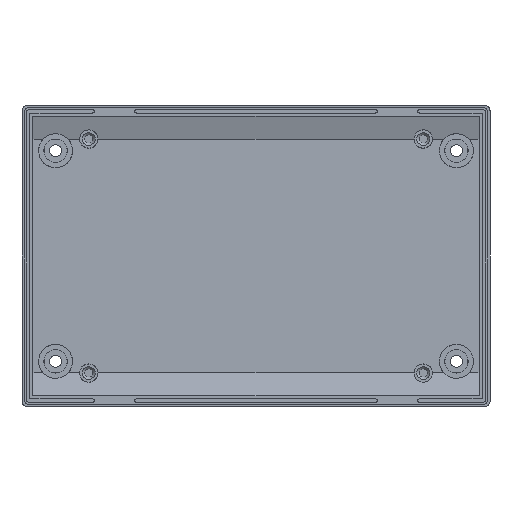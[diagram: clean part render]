
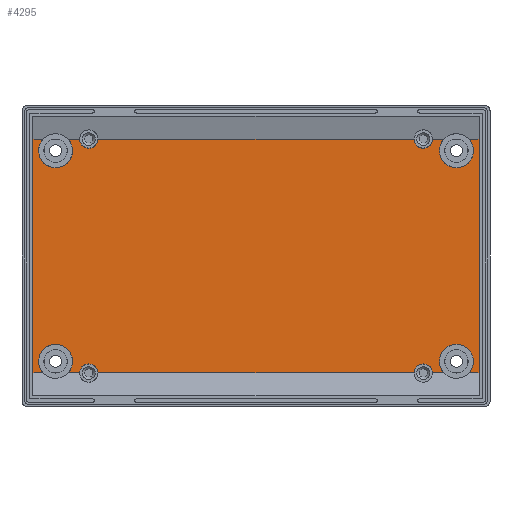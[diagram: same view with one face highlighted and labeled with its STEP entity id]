
A CAD part, top view. The second image highlights one B-rep face of the part: STEP entity #4295.
In plain terms, the highlighted planar face has unit normal (0, 0, 1).
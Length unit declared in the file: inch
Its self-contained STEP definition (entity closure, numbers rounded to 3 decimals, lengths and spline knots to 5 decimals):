
#3969=CARTESIAN_POINT('',(2.50499,-1.3698,-0.33));
#3970=VERTEX_POINT('',#3969);
#3971=CARTESIAN_POINT('',(2.20501,-1.3698,-0.33));
#3972=VERTEX_POINT('',#3971);
#3980=CARTESIAN_POINT('',(2.355,-1.2375,-0.33));
#3981=DIRECTION('',(0.0,0.0,-1.0));
#3982=DIRECTION('',(-1.0,0.0,0.0));
#3983=AXIS2_PLACEMENT_3D('',#3980,#3981,#3982);
#3984=CIRCLE('',#3983,0.2);
#3985=EDGE_CURVE('',#3972,#3970,#3984,.T.);
#4018=CARTESIAN_POINT('',(2.20501,1.3698,-0.33));
#4019=VERTEX_POINT('',#4018);
#4020=CARTESIAN_POINT('',(2.50499,1.3698,-0.33));
#4021=VERTEX_POINT('',#4020);
#4029=CARTESIAN_POINT('',(2.355,1.2375,-0.33));
#4030=DIRECTION('',(0.0,0.0,-1.0));
#4031=DIRECTION('',(-1.0,0.0,0.0));
#4032=AXIS2_PLACEMENT_3D('',#4029,#4030,#4031);
#4033=CIRCLE('',#4032,0.2);
#4034=EDGE_CURVE('',#4021,#4019,#4033,.T.);
#4067=CARTESIAN_POINT('',(-2.50499,1.3698,-0.33));
#4068=VERTEX_POINT('',#4067);
#4069=CARTESIAN_POINT('',(-2.20501,1.3698,-0.33));
#4070=VERTEX_POINT('',#4069);
#4078=CARTESIAN_POINT('',(-2.355,1.2375,-0.33));
#4079=DIRECTION('',(0.0,0.0,-1.0));
#4080=DIRECTION('',(-1.0,0.0,0.0));
#4081=AXIS2_PLACEMENT_3D('',#4078,#4079,#4080);
#4082=CIRCLE('',#4081,0.2);
#4083=EDGE_CURVE('',#4070,#4068,#4082,.T.);
#4116=CARTESIAN_POINT('',(-2.20501,-1.3698,-0.33));
#4117=VERTEX_POINT('',#4116);
#4118=CARTESIAN_POINT('',(-2.50499,-1.3698,-0.33));
#4119=VERTEX_POINT('',#4118);
#4127=CARTESIAN_POINT('',(-2.355,-1.2375,-0.33));
#4128=DIRECTION('',(0.0,0.0,-1.0));
#4129=DIRECTION('',(-1.0,0.0,0.0));
#4130=AXIS2_PLACEMENT_3D('',#4127,#4128,#4129);
#4131=CIRCLE('',#4130,0.2);
#4132=EDGE_CURVE('',#4119,#4117,#4131,.T.);
#4160=CARTESIAN_POINT('',(0.,0.,-0.33));
#4161=DIRECTION('',(0.0,0.0,1.0));
#4162=DIRECTION('',(1.0,0.0,0.0));
#4163=AXIS2_PLACEMENT_3D('',#4160,#4161,#4162);
#4164=PLANE('',#4163);
#4165=ORIENTED_EDGE('',*,*,#3985,.T.);
#4166=CARTESIAN_POINT('',(2.62067,-1.3698,-0.33));
#4167=VERTEX_POINT('',#4166);
#4168=CARTESIAN_POINT('',(2.62067,-1.3698,-0.33));
#4169=DIRECTION('',(-1.0,0.0,0.0));
#4170=VECTOR('',#4169,0.11568);
#4171=LINE('',#4168,#4170);
#4172=EDGE_CURVE('',#3970,#4167,#4171,.F.);
#4173=ORIENTED_EDGE('',*,*,#4172,.T.);
#4174=CARTESIAN_POINT('',(2.62067,1.3698,-0.33));
#4175=VERTEX_POINT('',#4174);
#4176=CARTESIAN_POINT('',(2.62067,1.3698,-0.33));
#4177=DIRECTION('',(0.0,-1.0,0.0));
#4178=VECTOR('',#4177,2.73961);
#4179=LINE('',#4176,#4178);
#4180=EDGE_CURVE('',#4175,#4167,#4179,.T.);
#4181=ORIENTED_EDGE('',*,*,#4180,.F.);
#4182=CARTESIAN_POINT('',(2.62067,1.3698,-0.33));
#4183=DIRECTION('',(-1.0,0.0,0.0));
#4184=VECTOR('',#4183,0.11568);
#4185=LINE('',#4182,#4184);
#4186=EDGE_CURVE('',#4021,#4175,#4185,.F.);
#4187=ORIENTED_EDGE('',*,*,#4186,.F.);
#4188=ORIENTED_EDGE('',*,*,#4034,.T.);
#4189=CARTESIAN_POINT('',(2.07237,1.3698,-0.33));
#4190=VERTEX_POINT('',#4189);
#4191=CARTESIAN_POINT('',(2.20501,1.3698,-0.33));
#4192=DIRECTION('',(-1.0,0.0,0.0));
#4193=VECTOR('',#4192,0.13264);
#4194=LINE('',#4191,#4193);
#4195=EDGE_CURVE('',#4190,#4019,#4194,.F.);
#4196=ORIENTED_EDGE('',*,*,#4195,.F.);
#4197=CARTESIAN_POINT('',(1.85763,1.3698,-0.33));
#4198=VERTEX_POINT('',#4197);
#4199=CARTESIAN_POINT('',(1.965,1.375,-0.33));
#4200=DIRECTION('',(0.0,0.0,-1.0));
#4201=DIRECTION('',(-1.0,0.0,0.0));
#4202=AXIS2_PLACEMENT_3D('',#4199,#4200,#4201);
#4203=CIRCLE('',#4202,0.1075);
#4204=EDGE_CURVE('',#4190,#4198,#4203,.T.);
#4205=ORIENTED_EDGE('',*,*,#4204,.T.);
#4206=CARTESIAN_POINT('',(-1.85763,1.3698,-0.33));
#4207=VERTEX_POINT('',#4206);
#4208=CARTESIAN_POINT('',(1.85763,1.3698,-0.33));
#4209=DIRECTION('',(-1.0,0.0,0.0));
#4210=VECTOR('',#4209,3.71525);
#4211=LINE('',#4208,#4210);
#4212=EDGE_CURVE('',#4207,#4198,#4211,.F.);
#4213=ORIENTED_EDGE('',*,*,#4212,.F.);
#4214=CARTESIAN_POINT('',(-2.07237,1.3698,-0.33));
#4215=VERTEX_POINT('',#4214);
#4216=CARTESIAN_POINT('',(-1.965,1.375,-0.33));
#4217=DIRECTION('',(0.0,0.0,-1.0));
#4218=DIRECTION('',(-1.0,0.0,0.0));
#4219=AXIS2_PLACEMENT_3D('',#4216,#4217,#4218);
#4220=CIRCLE('',#4219,0.1075);
#4221=EDGE_CURVE('',#4207,#4215,#4220,.T.);
#4222=ORIENTED_EDGE('',*,*,#4221,.T.);
#4223=CARTESIAN_POINT('',(-2.07237,1.3698,-0.33));
#4224=DIRECTION('',(-1.0,0.0,0.0));
#4225=VECTOR('',#4224,0.13264);
#4226=LINE('',#4223,#4225);
#4227=EDGE_CURVE('',#4070,#4215,#4226,.F.);
#4228=ORIENTED_EDGE('',*,*,#4227,.F.);
#4229=ORIENTED_EDGE('',*,*,#4083,.T.);
#4230=CARTESIAN_POINT('',(-2.62067,1.3698,-0.33));
#4231=VERTEX_POINT('',#4230);
#4232=CARTESIAN_POINT('',(-2.50499,1.3698,-0.33));
#4233=DIRECTION('',(-1.0,0.0,0.0));
#4234=VECTOR('',#4233,0.11568);
#4235=LINE('',#4232,#4234);
#4236=EDGE_CURVE('',#4231,#4068,#4235,.F.);
#4237=ORIENTED_EDGE('',*,*,#4236,.F.);
#4238=CARTESIAN_POINT('',(-2.62067,-1.3698,-0.33));
#4239=VERTEX_POINT('',#4238);
#4240=CARTESIAN_POINT('',(-2.62067,1.3698,-0.33));
#4241=DIRECTION('',(0.0,-1.0,0.0));
#4242=VECTOR('',#4241,2.73961);
#4243=LINE('',#4240,#4242);
#4244=EDGE_CURVE('',#4231,#4239,#4243,.T.);
#4245=ORIENTED_EDGE('',*,*,#4244,.T.);
#4246=CARTESIAN_POINT('',(-2.50499,-1.3698,-0.33));
#4247=DIRECTION('',(-1.0,0.0,0.0));
#4248=VECTOR('',#4247,0.11568);
#4249=LINE('',#4246,#4248);
#4250=EDGE_CURVE('',#4239,#4119,#4249,.F.);
#4251=ORIENTED_EDGE('',*,*,#4250,.T.);
#4252=ORIENTED_EDGE('',*,*,#4132,.T.);
#4253=CARTESIAN_POINT('',(-2.07237,-1.3698,-0.33));
#4254=VERTEX_POINT('',#4253);
#4255=CARTESIAN_POINT('',(-2.07237,-1.3698,-0.33));
#4256=DIRECTION('',(-1.0,0.0,0.0));
#4257=VECTOR('',#4256,0.13264);
#4258=LINE('',#4255,#4257);
#4259=EDGE_CURVE('',#4117,#4254,#4258,.F.);
#4260=ORIENTED_EDGE('',*,*,#4259,.T.);
#4261=CARTESIAN_POINT('',(-1.85763,-1.3698,-0.33));
#4262=VERTEX_POINT('',#4261);
#4263=CARTESIAN_POINT('',(-1.965,-1.375,-0.33));
#4264=DIRECTION('',(0.0,0.0,-1.0));
#4265=DIRECTION('',(-1.0,0.0,0.0));
#4266=AXIS2_PLACEMENT_3D('',#4263,#4264,#4265);
#4267=CIRCLE('',#4266,0.1075);
#4268=EDGE_CURVE('',#4254,#4262,#4267,.T.);
#4269=ORIENTED_EDGE('',*,*,#4268,.T.);
#4270=CARTESIAN_POINT('',(1.85763,-1.3698,-0.33));
#4271=VERTEX_POINT('',#4270);
#4272=CARTESIAN_POINT('',(1.85763,-1.3698,-0.33));
#4273=DIRECTION('',(-1.0,0.0,0.0));
#4274=VECTOR('',#4273,3.71525);
#4275=LINE('',#4272,#4274);
#4276=EDGE_CURVE('',#4262,#4271,#4275,.F.);
#4277=ORIENTED_EDGE('',*,*,#4276,.T.);
#4278=CARTESIAN_POINT('',(2.07237,-1.3698,-0.33));
#4279=VERTEX_POINT('',#4278);
#4280=CARTESIAN_POINT('',(1.965,-1.375,-0.33));
#4281=DIRECTION('',(0.0,0.0,-1.0));
#4282=DIRECTION('',(-1.0,0.0,0.0));
#4283=AXIS2_PLACEMENT_3D('',#4280,#4281,#4282);
#4284=CIRCLE('',#4283,0.1075);
#4285=EDGE_CURVE('',#4271,#4279,#4284,.T.);
#4286=ORIENTED_EDGE('',*,*,#4285,.T.);
#4287=CARTESIAN_POINT('',(2.20501,-1.3698,-0.33));
#4288=DIRECTION('',(-1.0,0.0,0.0));
#4289=VECTOR('',#4288,0.13264);
#4290=LINE('',#4287,#4289);
#4291=EDGE_CURVE('',#4279,#3972,#4290,.F.);
#4292=ORIENTED_EDGE('',*,*,#4291,.T.);
#4293=EDGE_LOOP('',(#4165,#4173,#4181,#4187,#4188,#4196,#4205,#4213,#4222,#4228,#4229,#4237,#4245,#4251,#4252,#4260,#4269,#4277,#4286,#4292));
#4294=FACE_OUTER_BOUND('',#4293,.T.);
#4295=ADVANCED_FACE('',(#4294),#4164,.T.);
